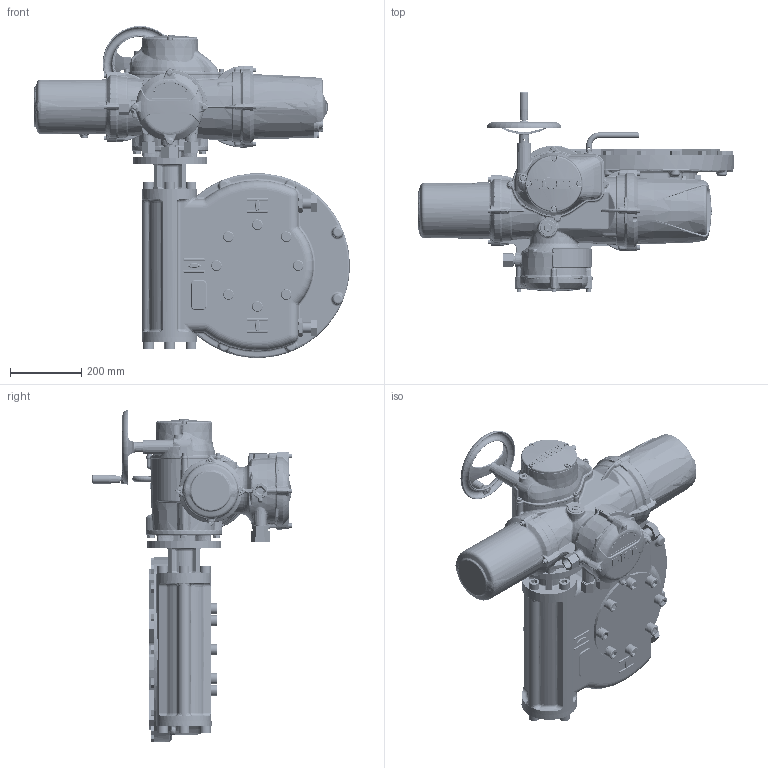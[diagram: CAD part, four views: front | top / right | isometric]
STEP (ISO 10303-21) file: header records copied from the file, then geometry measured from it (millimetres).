
FILE_DESCRIPTION( ( 'Unknown' ), '1' );
FILE_NAME( 'S:/Release/InstallationDrgs-IQmk3/Datasheets for Bishams release program/IQMK3 DATASHEETS/IQ3, IW4- 11 & 13/II3SHWIW8STD-1.stp', 'Unknown', ( 'Unknown' ), ( 'Unknown' ), 'PSStep 16.0.42', 'Unknown', ' ' );
FILE_SCHEMA( ( 'AUTOMOTIVE_DESIGN { 1 0 10303 214 1 1 1 1 }' ) );
Length unit declared in the file: millimetre
Products named in the file (9): II0-20SHORT-std
Bounding box: 887.93 x 563.65 x 934.2 mm (x, y, z)
Volume: 394100.3 mm3; surface area: 2202152.7 mm2
Topology: 85 solids, 88 shells, 7518 faces, 18515 edges, 11023 vertices
Faces by surface type: bspline 2383, plane 2141, cylinder 1135, torus 776, cone 713, sphere 206, extrusion 128, revolution 21, offset 15
Full cylindrical faces by diameter (mm): 1.152 x1, 3 x8, 4.917 x6, 5.5 x1, 6 x3, 6.2 x2, 6.45 x8, 6.47 x8, 6.5 x1, 7 x4, 7.6 x4, 8 x21, 8.1 x1, 8.2 x1, 8.5 x4, 9.7 x2, 10 x1, 10.45 x4, 10.47 x4, 11.78 x1, 12 x4, 12.1 x1, 12.444 x1, 12.5 x4, 13 x13, 13.25 x8, 14 x1, 15.281 x1, 15.5 x1, 15.84 x1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
Entity records: 664271 total; most frequent: CARTESIAN_POINT 451678, ORIENTED_EDGE 34512, DIRECTION 27109, EDGE_CURVE 17256, AXIS2_PLACEMENT_3D 11371, VERTEX_POINT 10660, EDGE_LOOP 8379, FACE_OUTER_BOUND 7855
